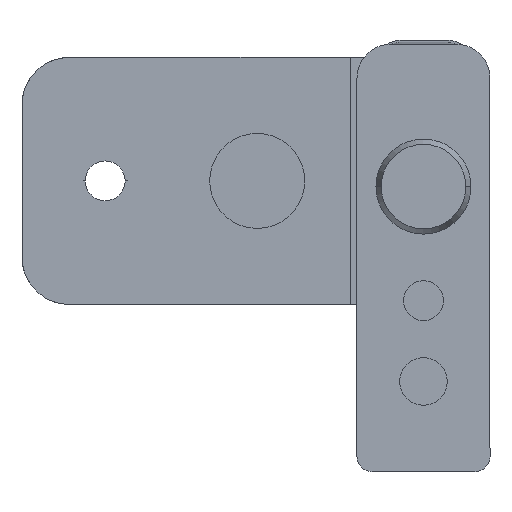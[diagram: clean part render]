
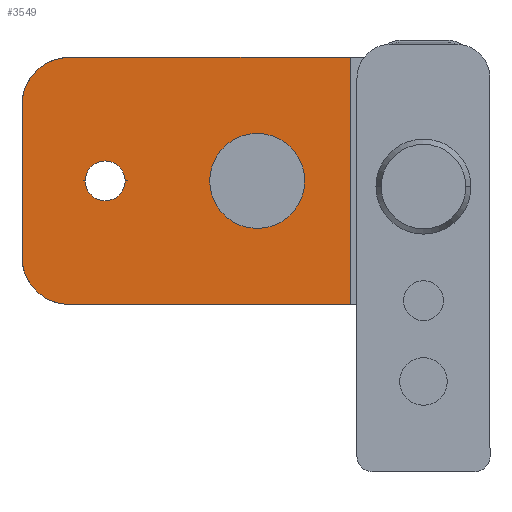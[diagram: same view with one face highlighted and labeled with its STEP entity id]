
A CAD part, front view. The second image highlights one B-rep face of the part: STEP entity #3549.
In plain terms, the highlighted planar face has unit normal (0, -1, 0).
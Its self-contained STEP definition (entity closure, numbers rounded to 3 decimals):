
#100 = CARTESIAN_POINT ( 'NONE',  ( -33.5, 267., 0.6 ) ) ;
#101 = DIRECTION ( 'NONE',  ( 0., 1., 0. ) ) ;
#102 = DIRECTION ( 'NONE',  ( -1., 0., 0. ) ) ;
#128 = CARTESIAN_POINT ( 'NONE',  ( -42.25, 267., 13.6 ) ) ;
#129 = DIRECTION ( 'NONE',  ( 1., 0., 0. ) ) ;
#132 = CARTESIAN_POINT ( 'NONE',  ( -42.25, 267., 8.6 ) ) ;
#393 = VERTEX_POINT ( 'NONE', #413 ) ;
#413 = CARTESIAN_POINT ( 'NONE',  ( -31.4, 267., 0.6 ) ) ;
#425 = EDGE_CURVE ( 'NONE', #4492, #1662, #2232, .T. ) ;
#442 = EDGE_CURVE ( 'NONE', #1662, #2975, #2304, .T. ) ;
#471 = VERTEX_POINT ( 'NONE', #1109 ) ;
#472 = VERTEX_POINT ( 'NONE', #1110 ) ;
#717 = AXIS2_PLACEMENT_3D ( 'NONE', #1551, #1552, #1553 ) ;
#783 = AXIS2_PLACEMENT_3D ( 'NONE', #3956, #3957, #3958 ) ;
#784 = AXIS2_PLACEMENT_3D ( 'NONE', #3963, #3964, #3965 ) ;
#823 = AXIS2_PLACEMENT_3D ( 'NONE', #100, #101, #102 ) ;
#1071 = CARTESIAN_POINT ( 'NONE',  ( -37.25, 267., -7.4 ) ) ;
#1072 = DIRECTION ( 'NONE',  ( 0., -1., 0. ) ) ;
#1073 = DIRECTION ( 'NONE',  ( -1., 0., 0. ) ) ;
#1109 = CARTESIAN_POINT ( 'NONE',  ( -7.7, 267., -12.4 ) ) ;
#1110 = CARTESIAN_POINT ( 'NONE',  ( -7.7, 267., 13.6 ) ) ;
#1141 = CARTESIAN_POINT ( 'NONE',  ( -35.6, 267., 0.6 ) ) ;
#1149 = CARTESIAN_POINT ( 'NONE',  ( -42.25, 267., -7.4 ) ) ;
#1550 = PLANE ( 'NONE',  #717 ) ;
#1551 = CARTESIAN_POINT ( 'NONE',  ( -42.25, 267., 13.6 ) ) ;
#1552 = DIRECTION ( 'NONE',  ( 0., 1., 0. ) ) ;
#1553 = DIRECTION ( 'NONE',  ( -1., 0., 0. ) ) ;
#1654 = VERTEX_POINT ( 'NONE', #1141 ) ;
#1662 = VERTEX_POINT ( 'NONE', #1149 ) ;
#2232 = LINE ( 'NONE', #4673, #2254 ) ;
#2254 = VECTOR ( 'NONE', #4674, 1000. ) ;
#2304 = CIRCLE ( 'NONE', #2393, 5. ) ;
#2393 = AXIS2_PLACEMENT_3D ( 'NONE', #1071, #1072, #1073 ) ;
#2543 = FACE_BOUND ( 'NONE', #3355, .T. ) ;
#2544 = FACE_OUTER_BOUND ( 'NONE', #3401, .T. ) ;
#2681 = LINE ( 'NONE', #3959, #2683 ) ;
#2682 = CIRCLE ( 'NONE', #783, 2.1 ) ;
#2683 = VECTOR ( 'NONE', #3960, 1000. ) ;
#2684 = LINE ( 'NONE', #3961, #2685 ) ;
#2685 = VECTOR ( 'NONE', #3962, 1000. ) ;
#2687 = CIRCLE ( 'NONE', #784, 5. ) ;
#2795 = CIRCLE ( 'NONE', #823, 2.1 ) ;
#2811 = LINE ( 'NONE', #128, #2812 ) ;
#2812 = VECTOR ( 'NONE', #129, 1000. ) ;
#2974 = VERTEX_POINT ( 'NONE', #4392 ) ;
#2975 = VERTEX_POINT ( 'NONE', #4393 ) ;
#3355 = EDGE_LOOP ( 'NONE', ( #4164, #4165 ) ) ;
#3401 = EDGE_LOOP ( 'NONE', ( #4163, #4194, #4193, #4192, #4158, #4191 ) ) ;
#3549 = ADVANCED_FACE ( 'NONE', ( #2543, #2544 ), #1550, .F. ) ;
#3730 = EDGE_CURVE ( 'NONE', #1654, #393, #2682, .T. ) ;
#3731 = EDGE_CURVE ( 'NONE', #2975, #471, #2681, .T. ) ;
#3732 = EDGE_CURVE ( 'NONE', #472, #471, #2684, .T. ) ;
#3733 = EDGE_CURVE ( 'NONE', #2974, #4492, #2687, .T. ) ;
#3809 = EDGE_CURVE ( 'NONE', #393, #1654, #2795, .T. ) ;
#3820 = EDGE_CURVE ( 'NONE', #2974, #472, #2811, .T. ) ;
#3956 = CARTESIAN_POINT ( 'NONE',  ( -33.5, 267., 0.6 ) ) ;
#3957 = DIRECTION ( 'NONE',  ( 0., 1., 0. ) ) ;
#3958 = DIRECTION ( 'NONE',  ( -1., 0., 0. ) ) ;
#3959 = CARTESIAN_POINT ( 'NONE',  ( -42.25, 267., -12.4 ) ) ;
#3960 = DIRECTION ( 'NONE',  ( 1., 0., 0. ) ) ;
#3961 = CARTESIAN_POINT ( 'NONE',  ( -7.7, 267., 13.6 ) ) ;
#3962 = DIRECTION ( 'NONE',  ( 0., 0., -1. ) ) ;
#3963 = CARTESIAN_POINT ( 'NONE',  ( -37.25, 267., 8.6 ) ) ;
#3964 = DIRECTION ( 'NONE',  ( 0., -1., 0. ) ) ;
#3965 = DIRECTION ( 'NONE',  ( -1., 0., 0. ) ) ;
#4158 = ORIENTED_EDGE ( 'NONE', *, *, #3820, .F. ) ;
#4163 = ORIENTED_EDGE ( 'NONE', *, *, #425, .T. ) ;
#4164 = ORIENTED_EDGE ( 'NONE', *, *, #3730, .T. ) ;
#4165 = ORIENTED_EDGE ( 'NONE', *, *, #3809, .T. ) ;
#4191 = ORIENTED_EDGE ( 'NONE', *, *, #3733, .T. ) ;
#4192 = ORIENTED_EDGE ( 'NONE', *, *, #3732, .F. ) ;
#4193 = ORIENTED_EDGE ( 'NONE', *, *, #3731, .T. ) ;
#4194 = ORIENTED_EDGE ( 'NONE', *, *, #442, .T. ) ;
#4392 = CARTESIAN_POINT ( 'NONE',  ( -37.25, 267., 13.6 ) ) ;
#4393 = CARTESIAN_POINT ( 'NONE',  ( -37.25, 267., -12.4 ) ) ;
#4492 = VERTEX_POINT ( 'NONE', #132 ) ;
#4673 = CARTESIAN_POINT ( 'NONE',  ( -42.25, 267., 13.6 ) ) ;
#4674 = DIRECTION ( 'NONE',  ( 0., 0., -1. ) ) ;
